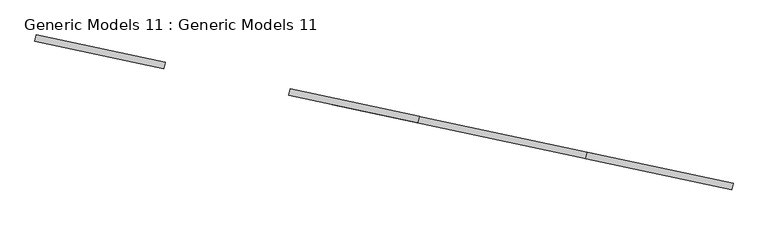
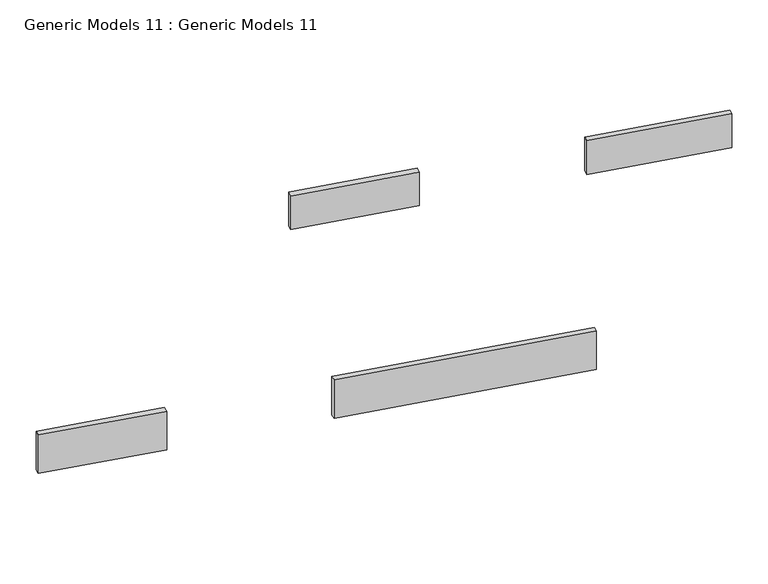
"""IFC4 building model written with IfcOpenShell, lengths in millimetres: proxy geometry, Generic Models 11 : Generic Models 11."""

from ifc_helpers import new_model, si_unit, frame, origin, place, context, project, spatial, polyline, outline, extrude, source, transform, mapped, element, save


def generic_models_11_generic_models_11_6183a3db(model_context):
    return source(origin(), model_context, "Body", "SweptSolid", [
        extrude(outline(polyline([(453360.6716723, 34367.9109476), (455610.411154, 33889.7140587), (455586.1837299, 33775.73299), (453336.4442483, 34253.9298789), (453360.6716723, 34367.9109476)])), frame((0.0, 0.0, 1200.0), z_axis=(0.0, 0.0, 1.0), x_axis=(1.0, 0.0, 0.0)), (0.0, 0.0, 1.0), 800.0),
        extrude(outline(polyline([(458544.8539562, 33265.9789863), (463142.1476797, 32288.7940394), (463117.9202556, 32174.8129707), (458520.6265321, 33151.9979175), (458544.8539562, 33265.9789863)])), frame((0.0, 0.0, 1200.0), z_axis=(0.0, 0.0, 1.0), x_axis=(1.0, 0.0, 0.0)), (0.0, 0.0, 1.0), 800.0),
        extrude(outline(polyline([(457790.5065265, 33426.3204822), (460040.2460082, 32948.1235933), (460016.0185841, 32834.1425246), (457766.2791025, 33312.3394135), (457790.5065265, 33426.3204822)])), frame((0.0, 0.0, 5300.0), z_axis=(0.0, 0.0, 1.0), x_axis=(1.0, 0.0, 0.0)), (0.0, 0.0, 1.0), 700.0),
        extrude(outline(polyline([(462974.6888104, 32324.3885209), (465517.8725723, 31783.8181248), (465493.6451483, 31669.837056), (462950.4613863, 32210.4074522), (462974.6888104, 32324.3885209)])), frame((0.0, 0.0, 5300.0), z_axis=(0.0, 0.0, 1.0), x_axis=(1.0, 0.0, 0.0)), (0.0, 0.0, 1.0), 700.0),
    ])


if __name__ == "__main__":
    model = new_model("IFC4")
    model_context = context("Model", 3, world=origin())
    ifc_project = project(units=[si_unit("LENGTHUNIT", "METRE", prefix="MILLI")], contexts=[model_context])
    site = spatial("IfcSite", under=ifc_project)
    building = spatial("IfcBuilding", under=site)
    placement = place(None, origin())
    generic_models_11_generic_models_11_shape = generic_models_11_generic_models_11_6183a3db(model_context)
    element("IfcBuildingElementProxy", 1, Name="Generic Models 11 : Generic Models 11", ObjectType="Generic Models 11 : Generic Models 11", at=placement, inside=building, context=model_context, shape_type="MappedRepresentation", body=[
        mapped(generic_models_11_generic_models_11_shape, transform((0.0, 0.0, 0.0), x_axis=(1.0, 0.0, 0.0), y_axis=(0.0, 1.0, 0.0), z_axis=(0.0, 0.0, 1.0))),
    ])
    save(model, "model.ifc")
